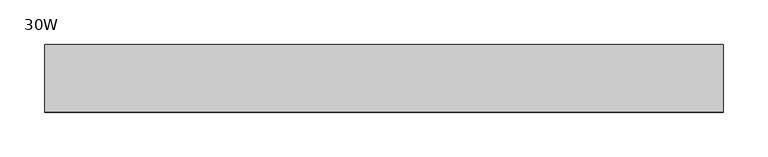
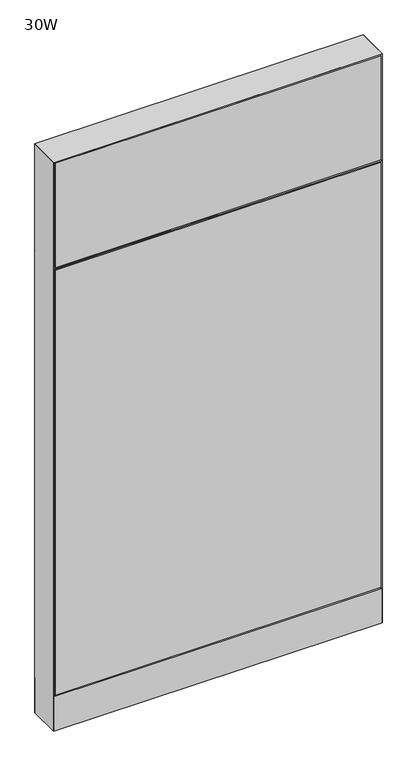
"""IFC4 building model written with IfcOpenShell, lengths in millimetres: furniture geometry, Steelcase - Montage - Frame - 55H - Enhanced Standard - Base Cavity : 30W."""

from ifc_helpers import new_model, si_unit, point, frame, frame_2d, origin, origin_with_axes, place, context, project, spatial, polyline, circle_curve, trimmed, segment, composite_curve, outline, extrude, faceted_brep, source, transform, mapped, element, save


def furniture_30w_bc3bb3c7(model_context):
    return source(origin(), model_context, "Body", "SolidModel", [
        faceted_brep([(6.3499917, 31.7526299, 1142.9999997), (6.3499917, 31.7526299, 1130.3000003), (755.6500047, 31.7526299, 1130.3000003), (755.6500047, 31.7526299, 1142.9999997), (-5.4e-06, 38.102627, 1136.6500027), (762.0, 38.1026253, 1136.6500044)], [[[0, 1, 2, 3]], [[4, 0, 3, 5]], [[5, 2, 1, 4]], [[4, 1, 0]], [[3, 2, 5]]]),
        extrude(outline(polyline([(3.175, 31.7500194), (3.175, 38.1000194), (758.825, 38.1000194), (758.825, 31.7500194), (3.175, 31.7500194)])), frame((0.0, 0.0, 1139.825), z_axis=(0.0, 0.0, 1.0), x_axis=(1.0, 0.0, 0.0)), (0.0, 0.0, 1.0), 255.5875),
        extrude(outline(polyline([(3.175, 31.7500194), (3.175, 38.1000194), (758.825, 38.1000194), (758.825, 31.7500194), (3.175, 31.7500194)])), frame((0.0, 0.0, 92.075), z_axis=(0.0, 0.0, 1.0), x_axis=(1.0, 0.0, 0.0)), (0.0, 0.0, 1.0), 1041.4),
        faceted_brep([(6.3499917, -31.7526299, 1142.9999997), (755.6500047, -31.7526299, 1142.9999997), (755.6500047, -31.7526299, 1130.3000003), (6.3499917, -31.7526299, 1130.3000003), (0.0, -38.1026297, 1136.65), (762.0, -38.1026297, 1136.65)], [[[0, 1, 2, 3]], [[4, 5, 1, 0]], [[5, 4, 3, 2]], [[4, 0, 3]], [[1, 5, 2]]]),
        extrude(outline(polyline([(3.175, -31.7500194), (758.825, -31.7500194), (758.825, -38.1000194), (3.175, -38.1000194), (3.175, -31.7500194)])), frame((0.0, 0.0, 1139.825), z_axis=(0.0, 0.0, 1.0), x_axis=(1.0, 0.0, 0.0)), (0.0, 0.0, 1.0), 255.5875),
        extrude(outline(polyline([(3.175, -31.7500194), (758.825, -31.7500194), (758.825, -38.1000194), (3.175, -38.1000194), (3.175, -31.7500194)])), frame((0.0, 0.0, 92.075), z_axis=(0.0, 0.0, 1.0), x_axis=(1.0, 0.0, 0.0)), (0.0, 0.0, 1.0), 1041.4),
        extrude(outline(polyline([(6.350003, -31.7499985), (755.649997, -31.7499985), (762.0, -38.1000015), (0.0, -38.1000015), (6.350003, -31.7499985)])), frame((0.0, 0.0, 4.064), z_axis=(0.0, 0.0, 1.0), x_axis=(1.0, 0.0, 0.0)), (0.0, 0.0, 1.0), 84.835997),
        extrude(outline(polyline([(6.3500002, 31.7500017), (0.0, 38.1000015), (762.0, 38.1000015), (755.6500002, 31.7500017), (6.3500002, 31.7500017)])), frame((0.0, 0.0, 4.064), z_axis=(0.0, 0.0, 1.0), x_axis=(1.0, 0.0, 0.0)), (0.0, 0.0, 1.0), 84.835997),
        faceted_brep([(762.0, -38.1000015, 1398.5875), (0.0, -38.1000015, 1398.5875), (6.3500484, -31.749953, 1392.2374516), (755.6499516, -31.749953, 1392.2374516), (6.3500484, 31.749953, 1392.2374516), (755.6499516, 31.749953, 1392.2374516), (0.0, 38.1000015, 1398.5875), (762.0, 38.1000015, 1398.5875)], [[[0, 1, 2, 3]], [[3, 2, 4, 5]], [[6, 7, 5, 4]], [[1, 0, 7, 6]], [[2, 1, 6, 4]], [[0, 3, 5, 7]]]),
        extrude(outline(composite_curve([segment(trimmed(circle_curve(frame_2d((44.45, 0.0)), 15.24), [point((29.21, 0.0))], [point((59.69, 0.0))], False, "CARTESIAN"), True, "CONTINUOUS"), segment(trimmed(circle_curve(frame_2d((44.45, 0.0)), 15.24), [point((59.69, 0.0))], [point((29.21, 0.0))], False, "CARTESIAN"), True, "CONTINUOUS")], self_intersect=False)), origin_with_axes(), (0.0, 0.0, 1.0), 4.064),
        extrude(outline(composite_curve([segment(trimmed(circle_curve(frame_2d((717.55, 0.0)), 15.24), [point((702.31, 0.0))], [point((732.79, 0.0))], False, "CARTESIAN"), True, "CONTINUOUS"), segment(trimmed(circle_curve(frame_2d((717.55, 0.0)), 15.24), [point((732.79, 0.0))], [point((702.31, 0.0))], False, "CARTESIAN"), True, "CONTINUOUS")], self_intersect=False)), origin_with_axes(), (0.0, 0.0, 1.0), 4.064),
        faceted_brep([(762.0, -38.1000106, 4.064), (762.0, 38.1000015, 4.064), (762.0, 38.1000015, 1398.5875), (762.0, -38.1000106, 1398.5874637), (0.0, 38.1000015, 4.064), (0.0, -38.1000015, 4.064), (0.0, -38.1000015, 1398.5875), (0.0, 38.1000015, 1398.5875), (755.6499879, 31.7500017, 606.425), (6.35, 31.7500017, 606.425), (6.3499998, 31.7500017, 619.125), (755.6499879, 31.7500017, 619.125), (6.35, -31.7499985, 619.125), (755.6499879, -31.7499985, 619.125), (6.350003, -31.7499985, 606.425), (755.6499879, -31.7499985, 606.425), (6.35, 31.7500015, 4.064), (6.35, -31.7500015, 4.064), (755.6499879, 31.7499894, 4.064), (755.6499879, -31.7499985, 4.064), (6.35, 31.7500015, 1392.2375), (6.35, -31.7500015, 1392.2375), (755.6499879, -31.7499985, 1392.2374516), (755.6499879, 31.7499895, 1392.2374516)], [[[0, 1, 2, 3]], [[4, 5, 6, 7]], [[8, 9, 10, 11]], [[11, 10, 12, 13]], [[13, 12, 14, 15]], [[9, 8, 15, 14]], [[16, 17, 5, 4]], [[18, 1, 0, 19]], [[16, 4, 7, 20, 10, 9]], [[5, 17, 14, 12, 21, 6]], [[12, 10, 20, 21]], [[17, 16, 9, 14]], [[11, 13, 22, 23]], [[18, 19, 15, 8]], [[19, 0, 3, 22, 13, 15]], [[1, 18, 8, 11, 23, 2]], [[7, 6, 21, 20]], [[3, 2, 23, 22]]]),
    ])


if __name__ == "__main__":
    model = new_model("IFC4")
    model_context = context("Model", 3, world=origin())
    ifc_project = project(units=[si_unit("LENGTHUNIT", "METRE", prefix="MILLI")], contexts=[model_context])
    site = spatial("IfcSite", under=ifc_project)
    building = spatial("IfcBuilding", under=site)
    placement = place(None, origin())
    furniture_30w_shape = furniture_30w_bc3bb3c7(model_context)
    element("IfcFurniture", 1, ObjectType="Steelcase - Montage - Frame - 55H - Enhanced Standard - Base Cavity : 30W", at=placement, inside=building, context=model_context, shape_type="MappedRepresentation", body=[
        mapped(furniture_30w_shape, transform((0.0, 0.0, 0.0), x_axis=(1.0, 0.0, 0.0), y_axis=(0.0, 1.0, 0.0), z_axis=(0.0, 0.0, 1.0))),
    ])
    save(model, "model.ifc")
